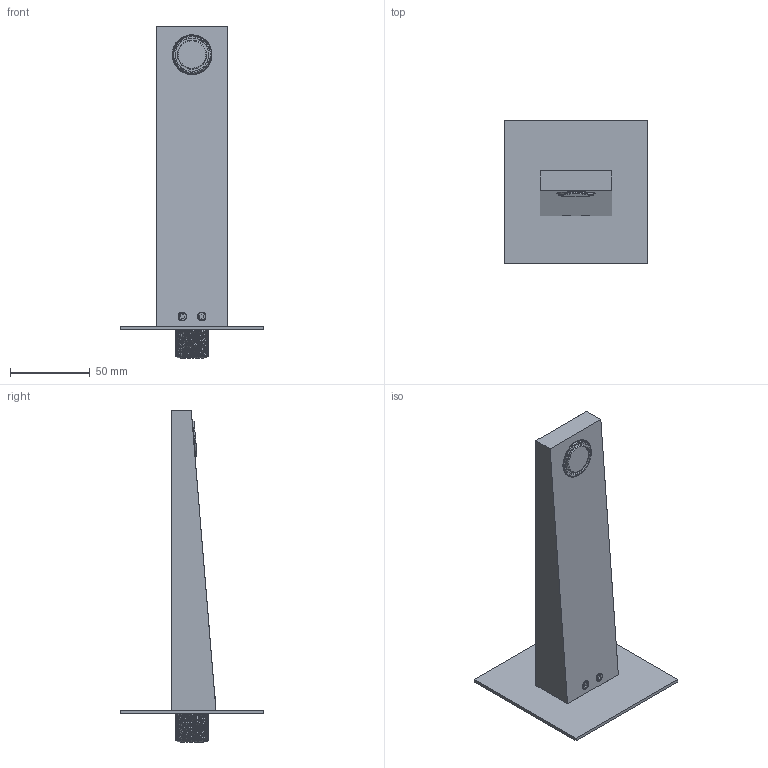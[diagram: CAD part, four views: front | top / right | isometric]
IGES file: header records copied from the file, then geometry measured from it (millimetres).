
Global section: file name: ce700067-dd45-4926-b1b3-1fb8740ded7e; native system: unknown; preprocessor: unknown; author: unknown; organization: unknown; date: 20191215.132023; units: millimetre
Bounding box: 90 x 90 x 208 mm (x, y, z)
Volume: 27919.6 mm3; surface area: 79864.6 mm2
Topology: 12 solids, 16 shells, 206 faces, 640 edges, 481 vertices
Faces by surface type: bspline 206
